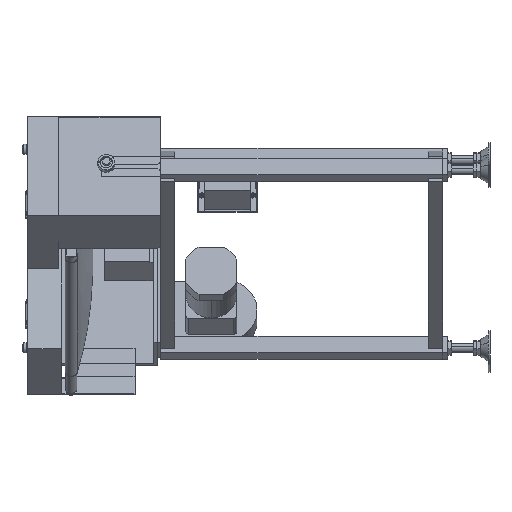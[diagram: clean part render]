
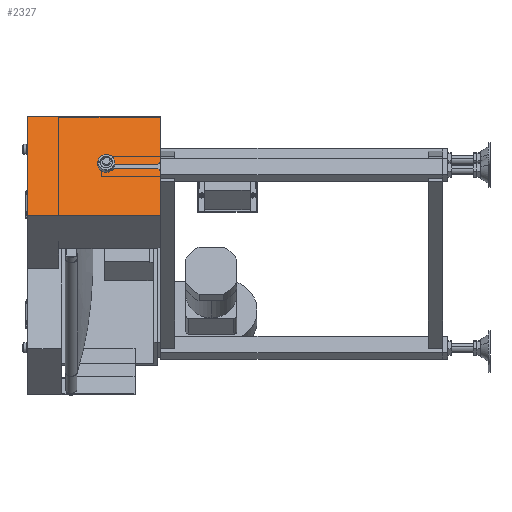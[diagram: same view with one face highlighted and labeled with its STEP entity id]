
A CAD part, left-side view. The second image highlights one B-rep face of the part: STEP entity #2327.
In plain terms, the highlighted planar face has unit normal (-0.924, 0, 0.383).
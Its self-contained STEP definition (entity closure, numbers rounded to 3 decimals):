
#2327=ADVANCED_FACE('',(#4757),#4756,.F.);
#4756=PLANE('',#15532);
#4757=FACE_OUTER_BOUND('',#15533,.T.);
#15529=CARTESIAN_POINT('',(171.536,-177.,-184.601));
#15530=DIRECTION('',(0.924,0.,-0.383));
#15531=DIRECTION('',(0.,1.,0.));
#15532=AXIS2_PLACEMENT_3D('',#15529,#15530,#15531);
#15533=EDGE_LOOP('',(#23266,#23267,#23268,#23269,#23270,#23271,#23272,#23273,#23274,#23275));
#23266=ORIENTED_EDGE('',*,*,#28145,.F.);
#23267=ORIENTED_EDGE('',*,*,#28152,.T.);
#23268=ORIENTED_EDGE('',*,*,#28153,.F.);
#23269=ORIENTED_EDGE('',*,*,#28154,.F.);
#23270=ORIENTED_EDGE('',*,*,#28155,.F.);
#23271=ORIENTED_EDGE('',*,*,#28156,.T.);
#23272=ORIENTED_EDGE('',*,*,#28130,.F.);
#23273=ORIENTED_EDGE('',*,*,#28151,.F.);
#23274=ORIENTED_EDGE('',*,*,#28146,.F.);
#23275=ORIENTED_EDGE('',*,*,#28138,.F.);
#28130=EDGE_CURVE('',#32613,#32614,#32615,.T.);
#28138=EDGE_CURVE('',#32662,#32669,#32670,.T.);
#28145=EDGE_CURVE('',#32710,#32662,#32717,.T.);
#28146=EDGE_CURVE('',#32669,#32723,#32724,.T.);
#28151=EDGE_CURVE('',#32723,#32613,#32755,.T.);
#28152=EDGE_CURVE('',#32710,#32761,#32762,.T.);
#28153=EDGE_CURVE('',#32768,#32761,#32769,.T.);
#28154=EDGE_CURVE('',#32775,#32768,#32776,.T.);
#28155=EDGE_CURVE('',#32782,#32775,#32783,.T.);
#28156=EDGE_CURVE('',#32782,#32614,#32789,.T.);
#32613=VERTEX_POINT('',#49057);
#32614=VERTEX_POINT('',#49058);
#32615=LINE('',#49059,#49060);
#32662=VERTEX_POINT('',#49085);
#32669=VERTEX_POINT('',#49089);
#32670=LINE('',#49090,#49091);
#32710=VERTEX_POINT('',#49112);
#32717=LINE('',#49116,#49117);
#32723=VERTEX_POINT('',#49119);
#32724=LINE('',#49120,#49121);
#32755=LINE('',#49137,#49138);
#32761=VERTEX_POINT('',#49140);
#32762=LINE('',#49141,#49142);
#32768=VERTEX_POINT('',#49144);
#32769=LINE('',#49145,#49146);
#32775=VERTEX_POINT('',#49148);
#32776=CIRCLE('',#49152,4.1);
#32782=VERTEX_POINT('',#49153);
#32783=LINE('',#49154,#49155);
#32789=LINE('',#49157,#49158);
#49057=CARTESIAN_POINT('',(248.,-167.,0.));
#49058=CARTESIAN_POINT('',(215.164,-167.,-79.274));
#49059=CARTESIAN_POINT('',(248.,-167.,0.));
#49060=VECTOR('',#49061,85.805);
#49061=DIRECTION('',(-0.383,0.,-0.924));
#49085=CARTESIAN_POINT('',(175.362,-167.,-175.362));
#49089=CARTESIAN_POINT('',(175.362,68.,-175.362));
#49090=CARTESIAN_POINT('',(175.362,-167.,-175.362));
#49091=VECTOR('',#49092,235.);
#49092=DIRECTION('',(0.,1.,0.));
#49112=CARTESIAN_POINT('',(208.199,-167.,-96.089));
#49116=CARTESIAN_POINT('',(208.199,-167.,-96.089));
#49117=VECTOR('',#49118,85.805);
#49118=DIRECTION('',(-0.383,0.,-0.924));
#49119=CARTESIAN_POINT('',(248.,68.,0.));
#49120=CARTESIAN_POINT('',(175.362,68.,-175.362));
#49121=VECTOR('',#49122,189.811);
#49122=DIRECTION('',(0.383,0.,0.924));
#49137=CARTESIAN_POINT('',(248.,68.,0.));
#49138=VECTOR('',#49139,235.);
#49139=DIRECTION('',(0.,-1.,0.));
#49140=CARTESIAN_POINT('',(210.112,-162.,-91.469));
#49141=CARTESIAN_POINT('',(208.199,-167.,-96.089));
#49142=VECTOR('',#49143,7.071);
#49143=DIRECTION('',(0.271,0.707,0.653));
#49144=CARTESIAN_POINT('',(210.112,-71.1,-91.469));
#49145=CARTESIAN_POINT('',(210.112,-71.1,-91.469));
#49146=VECTOR('',#49147,90.9);
#49147=DIRECTION('',(0.,-1.,0.));
#49148=CARTESIAN_POINT('',(213.25,-71.1,-83.893));
#49149=CARTESIAN_POINT('',(211.681,-71.1,-87.681));
#49150=DIRECTION('',(-0.924,0.,0.383));
#49151=DIRECTION('',(-0.383,0.,-0.924));
#49152=AXIS2_PLACEMENT_3D('',#49149,#49150,#49151);
#49153=CARTESIAN_POINT('',(213.25,-162.,-83.893));
#49154=CARTESIAN_POINT('',(213.25,-162.,-83.893));
#49155=VECTOR('',#49156,90.9);
#49156=DIRECTION('',(0.,1.,0.));
#49157=CARTESIAN_POINT('',(213.25,-162.,-83.893));
#49158=VECTOR('',#49159,7.071);
#49159=DIRECTION('',(0.271,-0.707,0.653));
